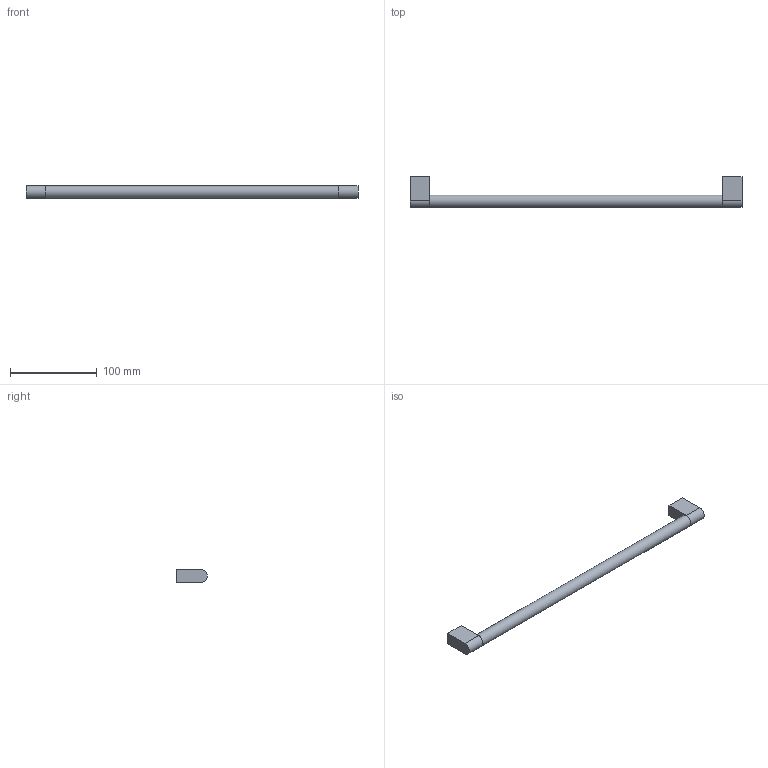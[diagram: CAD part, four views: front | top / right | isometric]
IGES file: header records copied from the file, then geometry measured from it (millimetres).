
Start section: Data from Parasolid IGES Translator 20.0.26, Copyright(c) 2006 Siemens P LM Software. All Rights Reserved.
Global section: file name: 9332353.igs; native system: By Siemens PLM Incorporated; preprocessor: XPlus GENERIC/IGES 20.0.26; author: Noname; organization: Noname; date: 20230829.122852; units: millimetre
Bounding box: 382 x 35.36 x 14.64 mm (x, y, z)
Surface area: 21448.2 mm2 (no closed solid volume)
Topology: 0 solids, 0 shells, 17 faces, 66 edges, 62 vertices
Faces by surface type: extrusion 12, revolution 5
